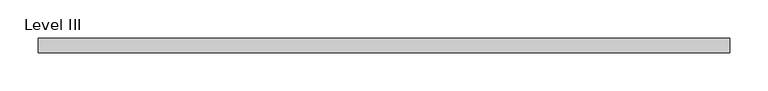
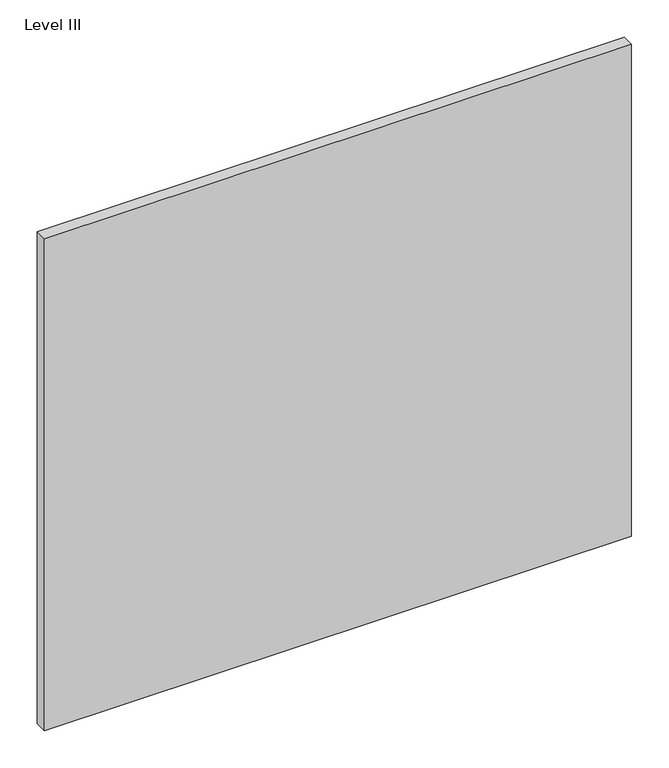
"""IFC4 building model written with IfcOpenShell, lengths in millimetres: proxy geometry, Panel-Fascia-Teknion-Altos-Standard : Level III."""

from ifc_helpers import new_model, si_unit, frame, origin, place, context, project, spatial, polyline, outline, extrude, source, transform, mapped, element, save


def level_iii_17d9b208(model_context):
    return source(origin(), model_context, "Body", "SweptSolid", [
        extrude(outline(polyline([(454.025, -9.525), (-454.025, -9.525), (-454.025, 9.525), (454.025, 9.525), (454.025, -9.525)])), frame((0.0, 0.0, 3.175), z_axis=(0.0, 0.0, 1.0), x_axis=(1.0, 0.0, 0.0)), (0.0, 0.0, 1.0), 804.418),
    ])


if __name__ == "__main__":
    model = new_model("IFC4")
    model_context = context("Model", 3, world=origin())
    ifc_project = project(units=[si_unit("LENGTHUNIT", "METRE", prefix="MILLI")], contexts=[model_context])
    site = spatial("IfcSite", under=ifc_project)
    building = spatial("IfcBuilding", under=site)
    placement = place(None, origin())
    level_iii_shape = level_iii_17d9b208(model_context)
    element("IfcBuildingElementProxy", 1, Name="Panel-Fascia-Teknion-Altos-Standard : Level III", ObjectType="Panel-Fascia-Teknion-Altos-Standard : Level III", at=placement, inside=building, context=model_context, shape_type="MappedRepresentation", body=[
        mapped(level_iii_shape, transform((0.0, 0.0, 0.0), x_axis=(1.0, 0.0, 0.0), y_axis=(0.0, 1.0, 0.0), z_axis=(0.0, 0.0, 1.0))),
    ])
    save(model, "model.ifc")
